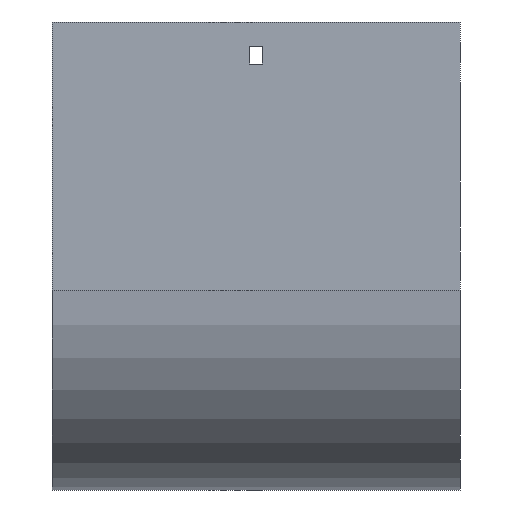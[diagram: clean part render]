
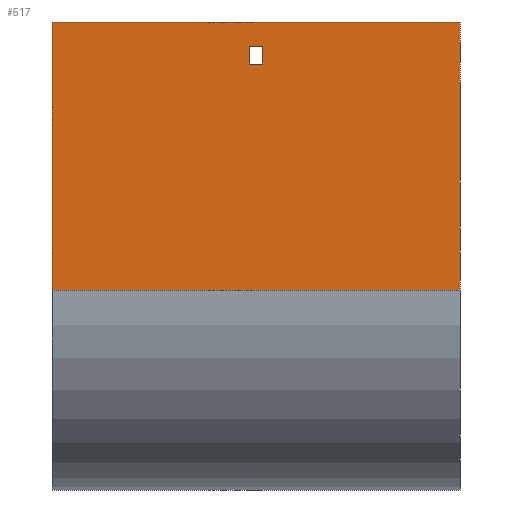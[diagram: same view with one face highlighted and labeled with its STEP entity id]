
A CAD part, front view. The second image highlights one B-rep face of the part: STEP entity #517.
In plain terms, the highlighted planar face has unit normal (0, -1, 0).
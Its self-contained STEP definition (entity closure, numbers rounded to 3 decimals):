
#32 = EDGE_CURVE ( 'NONE', #1020, #543, #1134, .T. ) ;
#63 = CARTESIAN_POINT ( 'NONE',  ( 102., -104., 0. ) ) ;
#70 = CARTESIAN_POINT ( 'NONE',  ( 3.25, -104., -12. ) ) ;
#113 = VERTEX_POINT ( 'NONE', #476 ) ;
#145 = EDGE_CURVE ( 'NONE', #1008, #113, #902, .T. ) ;
#173 = VECTOR ( 'NONE', #1297, 1000. ) ;
#199 = DIRECTION ( 'NONE',  ( -1., 0., 0. ) ) ;
#213 = EDGE_CURVE ( 'NONE', #113, #1020, #1111, .T. ) ;
#253 = CARTESIAN_POINT ( 'NONE',  ( -102., -104., 0. ) ) ;
#275 = DIRECTION ( 'NONE',  ( 0., 0., 1. ) ) ;
#303 = ORIENTED_EDGE ( 'NONE', *, *, #826, .T. ) ;
#340 = VECTOR ( 'NONE', #1278, 1000. ) ;
#364 = VECTOR ( 'NONE', #199, 1000. ) ;
#476 = CARTESIAN_POINT ( 'NONE',  ( 3.25, -104., -21. ) ) ;
#477 = ORIENTED_EDGE ( 'NONE', *, *, #32, .T. ) ;
#480 = EDGE_CURVE ( 'NONE', #581, #624, #911, .T. ) ;
#491 = DIRECTION ( 'NONE',  ( -1., 0., 0. ) ) ;
#498 = LINE ( 'NONE', #1097, #340 ) ;
#510 = CARTESIAN_POINT ( 'NONE',  ( 102., -104., -134. ) ) ;
#517 = ADVANCED_FACE ( 'NONE', ( #1069, #876 ), #1338, .F. ) ;
#543 = VERTEX_POINT ( 'NONE', #727 ) ;
#549 = VECTOR ( 'NONE', #743, 1000. ) ;
#581 = VERTEX_POINT ( 'NONE', #63 ) ;
#624 = VERTEX_POINT ( 'NONE', #1863 ) ;
#633 = ORIENTED_EDGE ( 'NONE', *, *, #480, .F. ) ;
#714 = LINE ( 'NONE', #1019, #838 ) ;
#724 = ORIENTED_EDGE ( 'NONE', *, *, #213, .T. ) ;
#727 = CARTESIAN_POINT ( 'NONE',  ( -3.25, -104., -12. ) ) ;
#743 = DIRECTION ( 'NONE',  ( 0., 0., -1. ) ) ;
#820 = AXIS2_PLACEMENT_3D ( 'NONE', #1167, #1780, #275 ) ;
#826 = EDGE_CURVE ( 'NONE', #543, #1008, #714, .T. ) ;
#838 = VECTOR ( 'NONE', #1614, 1000. ) ;
#876 = FACE_OUTER_BOUND ( 'NONE', #1301, .T. ) ;
#886 = CARTESIAN_POINT ( 'NONE',  ( 102., -104., -134. ) ) ;
#890 = CARTESIAN_POINT ( 'NONE',  ( 3.25, -104., -21. ) ) ;
#902 = LINE ( 'NONE', #890, #549 ) ;
#911 = LINE ( 'NONE', #886, #1576 ) ;
#916 = EDGE_CURVE ( 'NONE', #1633, #1769, #1804, .T. ) ;
#926 = CARTESIAN_POINT ( 'NONE',  ( -102., -104., -134. ) ) ;
#966 = ORIENTED_EDGE ( 'NONE', *, *, #916, .T. ) ;
#1008 = VERTEX_POINT ( 'NONE', #70 ) ;
#1019 = CARTESIAN_POINT ( 'NONE',  ( -3.25, -104., -12. ) ) ;
#1020 = VERTEX_POINT ( 'NONE', #1242 ) ;
#1059 = EDGE_CURVE ( 'NONE', #581, #1633, #498, .T. ) ;
#1063 = EDGE_LOOP ( 'NONE', ( #724, #477, #303, #1787 ) ) ;
#1069 = FACE_BOUND ( 'NONE', #1063, .T. ) ;
#1097 = CARTESIAN_POINT ( 'NONE',  ( 102., -104., 0. ) ) ;
#1111 = LINE ( 'NONE', #1573, #364 ) ;
#1134 = LINE ( 'NONE', #1747, #173 ) ;
#1167 = CARTESIAN_POINT ( 'NONE',  ( 102., -104., -134. ) ) ;
#1237 = DIRECTION ( 'NONE',  ( 0., 0., -1. ) ) ;
#1242 = CARTESIAN_POINT ( 'NONE',  ( -3.25, -104., -21. ) ) ;
#1255 = CARTESIAN_POINT ( 'NONE',  ( -102., -104., -134. ) ) ;
#1278 = DIRECTION ( 'NONE',  ( -1., 0., 0. ) ) ;
#1297 = DIRECTION ( 'NONE',  ( 0., 0., 1. ) ) ;
#1301 = EDGE_LOOP ( 'NONE', ( #966, #1398, #633, #1454 ) ) ;
#1338 = PLANE ( 'NONE',  #820 ) ;
#1398 = ORIENTED_EDGE ( 'NONE', *, *, #1802, .F. ) ;
#1419 = LINE ( 'NONE', #510, #1685 ) ;
#1454 = ORIENTED_EDGE ( 'NONE', *, *, #1059, .T. ) ;
#1573 = CARTESIAN_POINT ( 'NONE',  ( -3.25, -104., -21. ) ) ;
#1576 = VECTOR ( 'NONE', #1949, 1000. ) ;
#1614 = DIRECTION ( 'NONE',  ( 1., 0., 0. ) ) ;
#1633 = VERTEX_POINT ( 'NONE', #253 ) ;
#1685 = VECTOR ( 'NONE', #491, 1000. ) ;
#1747 = CARTESIAN_POINT ( 'NONE',  ( -3.25, -104., -21. ) ) ;
#1769 = VERTEX_POINT ( 'NONE', #1255 ) ;
#1780 = DIRECTION ( 'NONE',  ( 0., 1., 0. ) ) ;
#1787 = ORIENTED_EDGE ( 'NONE', *, *, #145, .T. ) ;
#1802 = EDGE_CURVE ( 'NONE', #624, #1769, #1419, .T. ) ;
#1804 = LINE ( 'NONE', #926, #1826 ) ;
#1826 = VECTOR ( 'NONE', #1237, 1000. ) ;
#1863 = CARTESIAN_POINT ( 'NONE',  ( 102., -104., -134. ) ) ;
#1949 = DIRECTION ( 'NONE',  ( 0., 0., -1. ) ) ;
